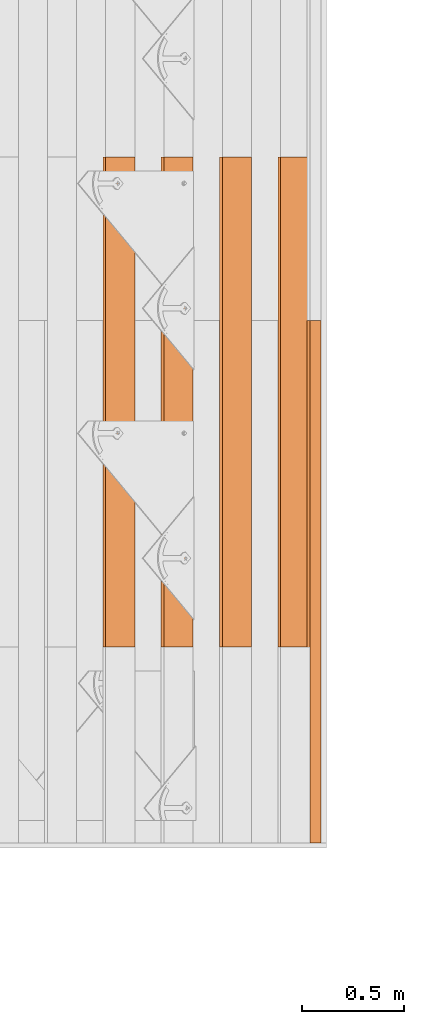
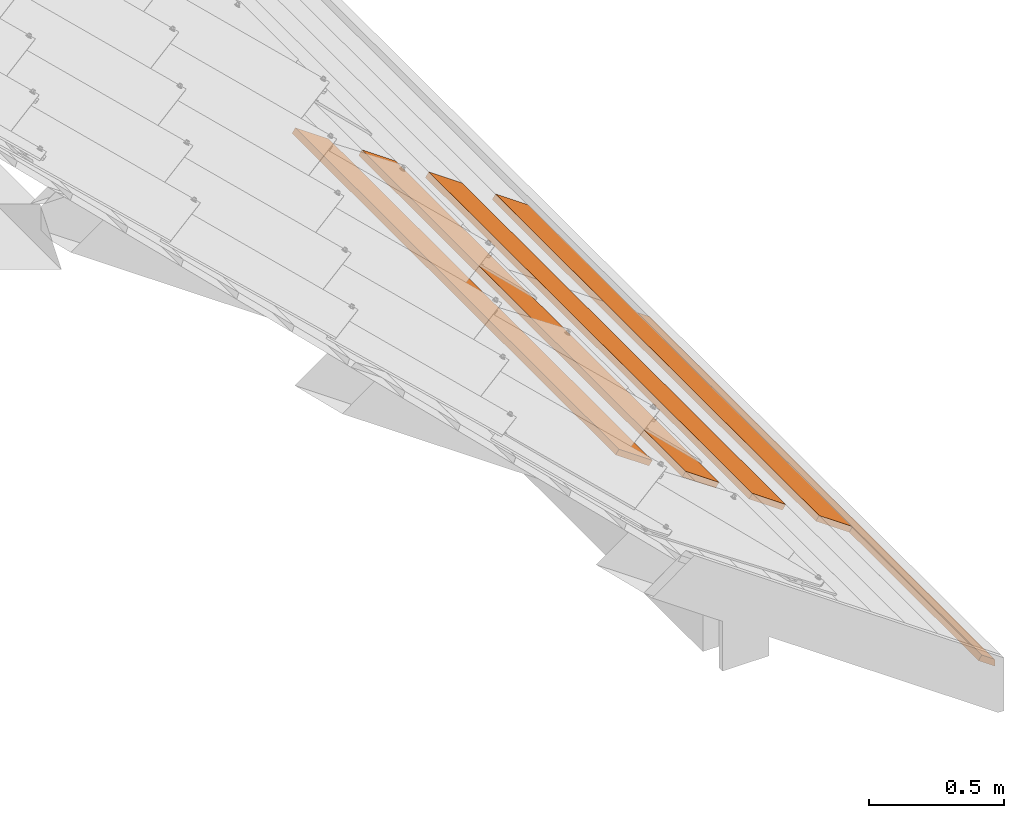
# One storey, part 101 of 151: 5 proxies, 1 element without a shape of its own.
"""IFC2X3 building model written with IfcOpenShell, lengths in millimetres."""

from ifc_helpers import new_model, entity, si_unit, converted_unit, derived_unit, direction, frame, frame_2d, origin, place, context, subcontext, project, spatial, polyline, rectangle, outline, extrude, source, transform, mapped, material, type_object, type_shapes, element, aggregate, save


model = new_model("IFC2X3")

# Units and contexts
model_context = context("Model", 3, precision=0.01, world=origin(), true_north=direction((6.12303176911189e-17, 1.0)))
body_context = subcontext(model_context, "Body", "Model", "MODEL_VIEW")
ifc_project = project(units=[si_unit("LENGTHUNIT", "METRE", prefix="MILLI"), si_unit("AREAUNIT", "SQUARE_METRE"), si_unit("VOLUMEUNIT", "CUBIC_METRE"), converted_unit("PLANEANGLEUNIT", "DEGREE", entity("IfcRatioMeasure", 0.0174532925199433), si_unit("PLANEANGLEUNIT", "RADIAN"), dimensions=[0, 0, 0, 0, 0, 0, 0]), si_unit("MASSUNIT", "GRAM", prefix="KILO"), derived_unit("MASSDENSITYUNIT", [(si_unit("MASSUNIT", "GRAM", prefix="KILO"), 1), (si_unit("LENGTHUNIT", "METRE"), -3)]), si_unit("TIMEUNIT", "SECOND"), si_unit("FREQUENCYUNIT", "HERTZ"), si_unit("THERMODYNAMICTEMPERATUREUNIT", "DEGREE_CELSIUS"), derived_unit("THERMALTRANSMITTANCEUNIT", [(si_unit("MASSUNIT", "GRAM", prefix="KILO"), 1), (si_unit("THERMODYNAMICTEMPERATUREUNIT", "KELVIN"), -1), (si_unit("TIMEUNIT", "SECOND"), -3)]), derived_unit("VOLUMETRICFLOWRATEUNIT", [(si_unit("LENGTHUNIT", "METRE"), 3), (si_unit("TIMEUNIT", "SECOND"), -1)]), si_unit("ELECTRICCURRENTUNIT", "AMPERE"), si_unit("ELECTRICVOLTAGEUNIT", "VOLT"), si_unit("POWERUNIT", "WATT"), si_unit("FORCEUNIT", "NEWTON", prefix="KILO"), si_unit("ILLUMINANCEUNIT", "LUX"), si_unit("LUMINOUSFLUXUNIT", "LUMEN"), si_unit("LUMINOUSINTENSITYUNIT", "CANDELA"), derived_unit("USERDEFINED", [(si_unit("MASSUNIT", "GRAM", prefix="KILO"), -1), (si_unit("LENGTHUNIT", "METRE"), -2), (si_unit("TIMEUNIT", "SECOND"), 3), (si_unit("LUMINOUSFLUXUNIT", "LUMEN"), 1)]), derived_unit("LINEARVELOCITYUNIT", [(si_unit("LENGTHUNIT", "METRE"), 1), (si_unit("TIMEUNIT", "SECOND"), -1)]), si_unit("PRESSUREUNIT", "PASCAL"), derived_unit("USERDEFINED", [(si_unit("LENGTHUNIT", "METRE"), -2), (si_unit("MASSUNIT", "GRAM", prefix="KILO"), 1), (si_unit("TIMEUNIT", "SECOND"), -2)])], contexts=[model_context])

# Site, building, storey
site_placement = place(None, origin())
site = spatial("IfcSite", under=ifc_project, at=site_placement, Name="Default", CompositionType="ELEMENT")
building_placement = place(site_placement, origin())
building = spatial("IfcBuilding", under=site, at=building_placement, CompositionType="ELEMENT")
storey_placement = place(building_placement, origin())
storey = spatial("IfcBuildingStorey", under=building, at=storey_placement, Name="Level 1", CompositionType="ELEMENT", Elevation=0.0)

# Assembly, proxies
assembly_placement = place(storey_placement, origin())
assembly = element("IfcElementAssembly", 1, at=assembly_placement, inside=storey, Name="Structural Framing Assembly:Roof Construction Assembly", ObjectType="Structural Framing Assembly:Roof Construction Assembly", AssemblyPlace="NOTDEFINED", PredefinedType="USERDEFINED")
ifc_material = material(Name="Wood - Generic - Wood For Showcase")
building_element_proxy_type_1 = type_object("IfcBuildingElementProxyType", Name="Structural Framing 15", PredefinedType="NOTDEFINED", material=ifc_material)
shared_shape_1 = source(origin(), body_context, "Body", "SweptSolid", [
    extrude(rectangle(XDim=24.9999999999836, YDim=174.344679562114, at=frame_2d((2.97539770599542e-13, -4.2632564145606e-14), x_axis=(1.0, 0.0))), frame((1285.35601305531, 1525.55080214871, 2760.23940055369), z_axis=(0.0, 1.0, 0.0), x_axis=(0.573576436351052, 0.0, 0.819152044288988)), (0.0, 0.0, 1.0), 2400.0),
])
type_shapes(building_element_proxy_type_1, [shared_shape_1])
proxy_1_placement = place(assembly_placement, frame((2913.78388459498, -7270.0, -2000.0)))
proxy_1 = element("IfcBuildingElementProxy", 2, at=proxy_1_placement, type_object=building_element_proxy_type_1, material=ifc_material, Name="Structural Framing 258:Structural Framing 15", ObjectType="Structural Framing 258:Structural Framing 15", context=body_context, shape_type="MappedRepresentation", body=[
    mapped(shared_shape_1, transform((0.0, 0.0, 0.0), scale=1.0)),
])
building_element_proxy_type_2 = type_object("IfcBuildingElementProxyType", Name="Structural Framing 15", PredefinedType="NOTDEFINED", material=ifc_material)
shared_shape_2 = source(origin(), body_context, "Body", "SweptSolid", [
    extrude(rectangle(XDim=24.9999999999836, YDim=174.344679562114, at=frame_2d((2.97539770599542e-13, -4.2632564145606e-14), x_axis=(1.0, 0.0))), frame((1285.35601305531, 1525.55080214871, 2760.23940055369), z_axis=(0.0, 1.0, 0.0), x_axis=(0.573576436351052, 0.0, 0.819152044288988)), (0.0, 0.0, 1.0), 2400.0),
])
type_shapes(building_element_proxy_type_2, [shared_shape_2])
proxy_2_placement = place(assembly_placement, frame((3199.41348594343, -7270.0, -2200.0)))
proxy_2 = element("IfcBuildingElementProxy", 3, at=proxy_2_placement, type_object=building_element_proxy_type_2, material=ifc_material, Name="Structural Framing 268:Structural Framing 15", ObjectType="Structural Framing 268:Structural Framing 15", context=body_context, shape_type="MappedRepresentation", body=[
    mapped(shared_shape_2, transform((0.0, 0.0, 0.0), scale=1.0)),
])
building_element_proxy_type_3 = type_object("IfcBuildingElementProxyType", Name="Structural Framing 15", PredefinedType="NOTDEFINED", material=ifc_material)
shared_shape_3 = source(origin(), body_context, "Body", "SweptSolid", [
    extrude(rectangle(XDim=24.9999999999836, YDim=174.344679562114, at=frame_2d((2.97539770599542e-13, -4.2632564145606e-14), x_axis=(1.0, 0.0))), frame((1285.35601305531, 1525.55080214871, 2760.23940055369), z_axis=(0.0, 1.0, 0.0), x_axis=(0.573576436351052, 0.0, 0.819152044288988)), (0.0, 0.0, 1.0), 2400.0),
])
type_shapes(building_element_proxy_type_3, [shared_shape_3])
proxy_3_placement = place(assembly_placement, frame((3485.04308729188, -7270.0, -2400.0)))
proxy_3 = element("IfcBuildingElementProxy", 4, at=proxy_3_placement, type_object=building_element_proxy_type_3, material=ifc_material, Name="Structural Framing 278:Structural Framing 15", ObjectType="Structural Framing 278:Structural Framing 15", context=body_context, shape_type="MappedRepresentation", body=[
    mapped(shared_shape_3, transform((0.0, 0.0, 0.0), scale=1.0)),
])
building_element_proxy_type_4 = type_object("IfcBuildingElementProxyType", Name="Structural Framing 15", PredefinedType="NOTDEFINED", material=ifc_material)
shared_shape_4 = source(origin(), body_context, "Body", "SweptSolid", [
    extrude(rectangle(XDim=24.9999999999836, YDim=174.344679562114, at=frame_2d((2.97539770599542e-13, -4.2632564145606e-14), x_axis=(1.0, 0.0))), frame((1285.35601305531, 1525.55080214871, 2760.23940055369), z_axis=(0.0, 1.0, 0.0), x_axis=(0.573576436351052, 0.0, 0.819152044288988)), (0.0, 0.0, 1.0), 2400.0),
])
type_shapes(building_element_proxy_type_4, [shared_shape_4])
proxy_4_placement = place(assembly_placement, frame((3770.67268864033, -7270.0, -2600.0)))
proxy_4 = element("IfcBuildingElementProxy", 5, at=proxy_4_placement, type_object=building_element_proxy_type_4, material=ifc_material, Name="Structural Framing 288:Structural Framing 15", ObjectType="Structural Framing 288:Structural Framing 15", context=body_context, shape_type="MappedRepresentation", body=[
    mapped(shared_shape_4, transform((0.0, 0.0, 0.0), scale=1.0)),
])
building_element_proxy_type_5 = type_object("IfcBuildingElementProxyType", Name="Structural Framing 15", PredefinedType="NOTDEFINED", material=ifc_material)
shared_shape_5 = source(origin(), body_context, "Body", "SweptSolid", [
    extrude(outline(polyline([(-12.4999999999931, -38.2231230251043), (12.4999999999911, -38.2231230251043), (12.4999999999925, 29.4705287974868), (-12.499999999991, 46.975717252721), (-12.4999999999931, -38.2231230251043)])), frame((5101.25878028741, -6702.90480582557, 88.3155178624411), z_axis=(0.0, 1.0, 0.0), x_axis=(0.573576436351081, 0.0, 0.819152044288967)), (0.0, 0.0, 1.0), 2558.45560797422),
])
type_shapes(building_element_proxy_type_5, [shared_shape_5])
proxy_5_placement = place(assembly_placement, frame((57.4878711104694, 0.0, 0.0)))
proxy_5 = element("IfcBuildingElementProxy", 6, at=proxy_5_placement, type_object=building_element_proxy_type_5, material=ifc_material, Name="Structural Framing 293:Structural Framing 15", ObjectType="Structural Framing 293:Structural Framing 15", context=body_context, shape_type="MappedRepresentation", body=[
    mapped(shared_shape_5, transform((0.0, 0.0, 0.0), scale=1.0)),
])
aggregate(assembly, [proxy_1, proxy_2, proxy_3, proxy_4, proxy_5])

save(model, "model.ifc")
